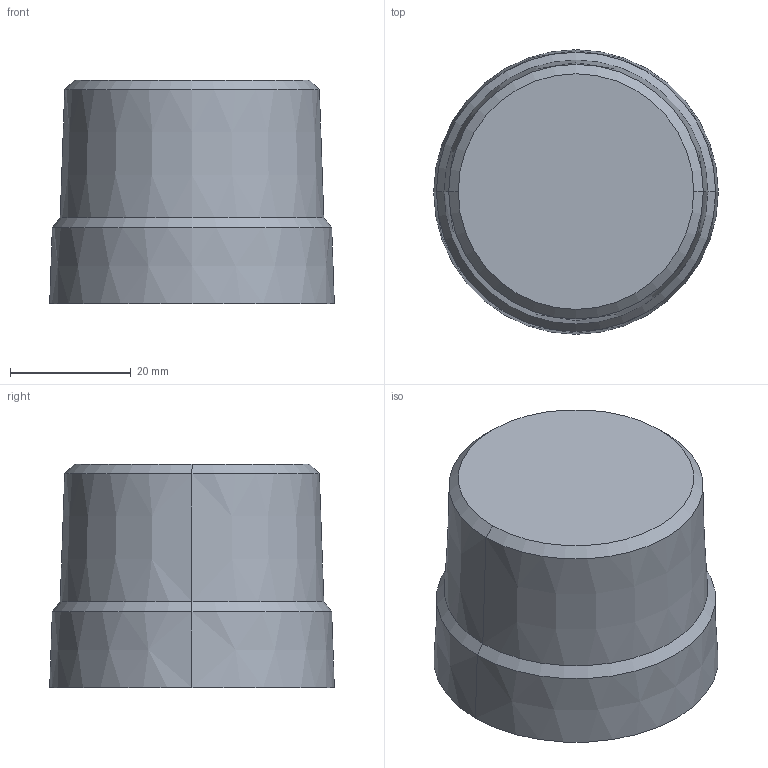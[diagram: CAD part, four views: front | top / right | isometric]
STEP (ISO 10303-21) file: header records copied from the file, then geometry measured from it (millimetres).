
FILE_DESCRIPTION(('STEP AP214'),'1');
FILE_NAME('Q43.stp','2026-05-27T08:34:15',(' '),('ANSOFT Corporation'),'Spatial InterOp 3D',' ',' ');
FILE_SCHEMA(('AUTOMOTIVE_DESIGN { 1 0 10303 214 1 1 1 1 }'));
Length unit declared in the file: millimetre
Products named in the file (1): 2445_8
Bounding box: 47.14 x 47.14 x 37 mm (x, y, z)
Volume: 10966.5 mm3; surface area: 17727.6 mm2
Topology: 2 solids, 2 shells, 143 faces, 364 edges, 240 vertices
Faces by surface type: cylinder 63, plane 54, cone 26
Entity records: 5650 total; most frequent: CARTESIAN_POINT 854, DIRECTION 810, ORIENTED_EDGE 728, EDGE_CURVE 364, AXIS2_PLACEMENT_3D 319, VERTEX_POINT 240, CIRCLE 174, LINE 172
